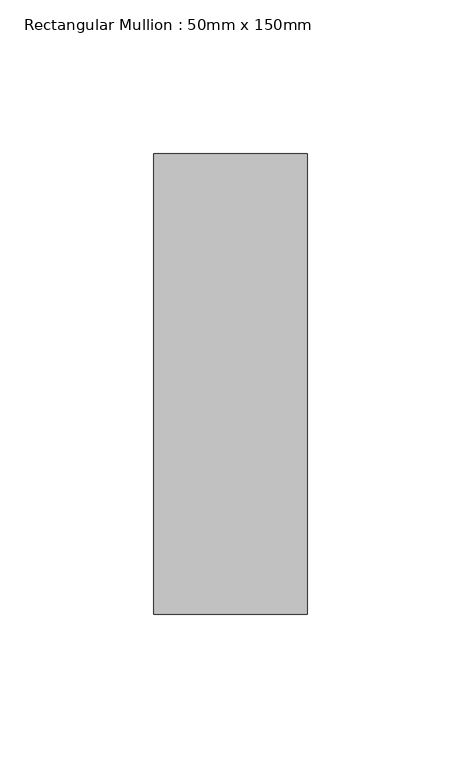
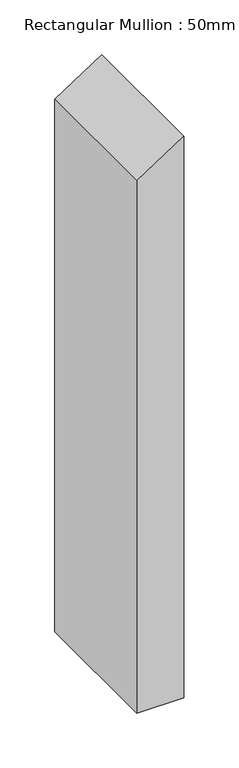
"""IFC4 building model written with IfcOpenShell, lengths in millimetres: member geometry, Rectangular Mullion : 50mm x 150mm."""

from ifc_helpers import new_model, si_unit, frame, origin, place, context, project, spatial, polyline, outline, extrude, source, transform, mapped, element, save


def rectangular_mullion_50mm_x_150mm_911f9bfa(model_context):
    return source(origin(), model_context, "Body", "SweptSolid", [
        extrude(outline(polyline([(0.0, 0.0), (-32.5536398, -50.0), (-627.067248, -50.0), (-627.067248, 0.0), (0.0, 0.0)])), frame((0.0, -75.0, 0.0), z_axis=(0.0, 1.0, 0.0), x_axis=(0.0, 0.0, 1.0)), (0.0, 0.0, 1.0), 150.0),
    ])


if __name__ == "__main__":
    model = new_model("IFC4")
    model_context = context("Model", 3, world=origin())
    ifc_project = project(units=[si_unit("LENGTHUNIT", "METRE", prefix="MILLI")], contexts=[model_context])
    site = spatial("IfcSite", under=ifc_project)
    building = spatial("IfcBuilding", under=site)
    placement = place(None, origin())
    rectangular_mullion_50mm_x_150mm_shape = rectangular_mullion_50mm_x_150mm_911f9bfa(model_context)
    element("IfcMember", 1, ObjectType="Rectangular Mullion : 50mm x 150mm", at=placement, inside=building, context=model_context, shape_type="MappedRepresentation", body=[
        mapped(rectangular_mullion_50mm_x_150mm_shape, transform((0.0, 0.0, 0.0), x_axis=(1.0, 0.0, 0.0), y_axis=(0.0, 1.0, 0.0), z_axis=(0.0, 0.0, 1.0))),
    ])
    save(model, "model.ifc")
